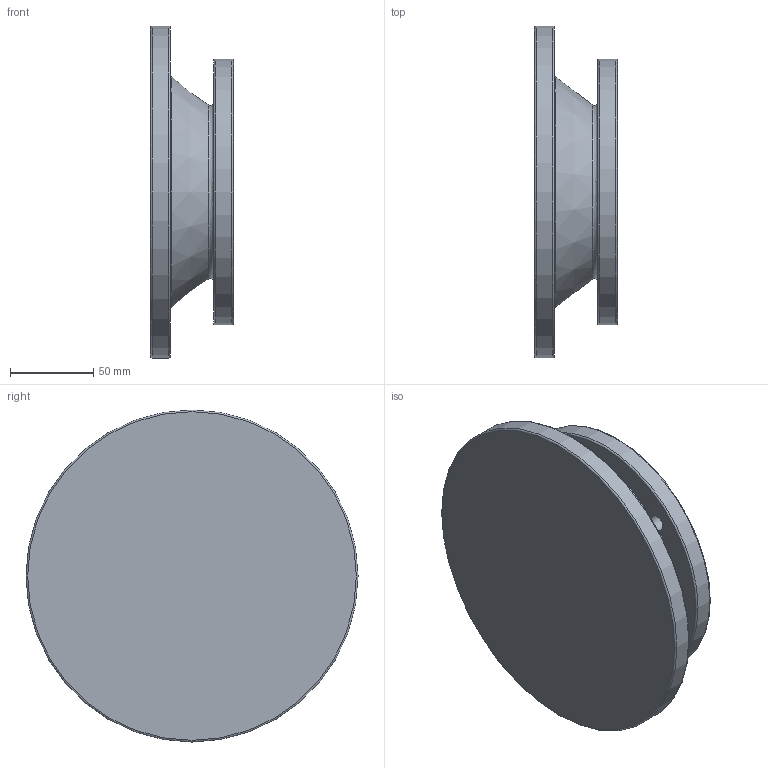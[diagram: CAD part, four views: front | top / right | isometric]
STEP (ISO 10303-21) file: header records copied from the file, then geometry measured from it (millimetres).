
FILE_DESCRIPTION((''),'2;1');
FILE_NAME('D:\PAWEŁ\ZLECENIA\2011 DualSystem\Przekładnie DR\DR70\STEP\71_B5_L50.stp','2012-06-11T12:13:02',('admin'),(''),'Autodesk Inventor 2009','Autodesk Inventor 2009','');
FILE_SCHEMA(('AUTOMOTIVE_DESIGN { 1 0 10303 214 1 1 1 1 }'));
Length unit declared in the file: millimetre
Products named in the file (1): 71_B5_L50
Bounding box: 50 x 200 x 200 mm (x, y, z)
Volume: 613724.9 mm3; surface area: 128020.5 mm2
Topology: 1 solids, 1 shells, 30 faces, 58 edges, 36 vertices
Faces by surface type: plane 11, cylinder 6, bspline 6, torus 5, cone 2
Full cylindrical faces by diameter (mm): 28 x1, 92 x1, 100 x1, 160 x1, 200 x1
Entity records: 895 total; most frequent: CARTESIAN_POINT 281, DIRECTION 120, ORIENTED_EDGE 80, EDGE_LOOP 62, AXIS2_PLACEMENT_3D 55, EDGE_CURVE 40, VERTEX_POINT 36, FACE_BOUND 32
